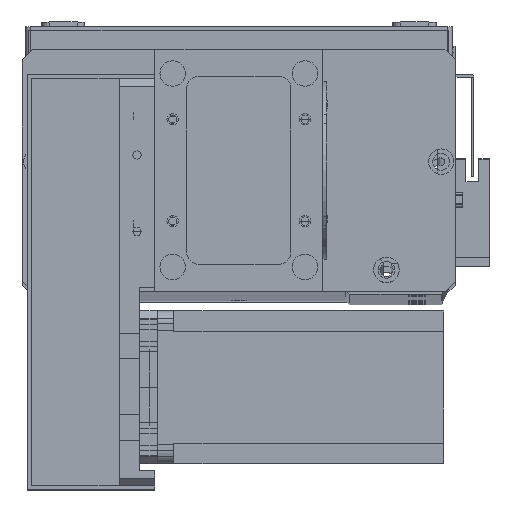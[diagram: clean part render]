
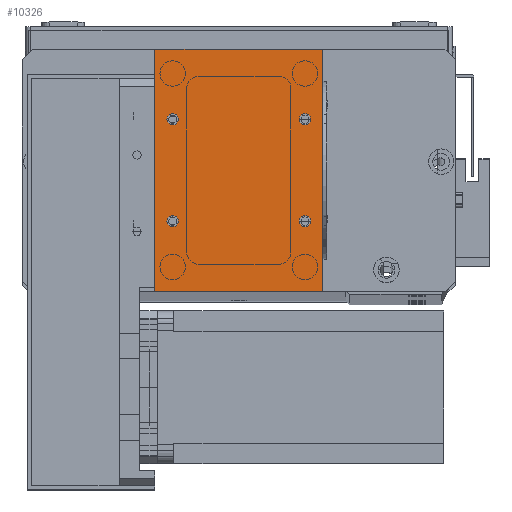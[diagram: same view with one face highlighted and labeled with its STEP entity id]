
A CAD part, top view. The second image highlights one B-rep face of the part: STEP entity #10326.
In plain terms, the highlighted planar face has unit normal (0, 0, 1).
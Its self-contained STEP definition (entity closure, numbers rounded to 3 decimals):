
#261 = DIRECTION ( 'NONE',  ( 0., 0., 1. ) ) ;
#280 = AXIS2_PLACEMENT_3D ( 'NONE', #5187, #23461, #7824 ) ;
#470 = VECTOR ( 'NONE', #3710, 1000. ) ;
#832 = ORIENTED_EDGE ( 'NONE', *, *, #5645, .F. ) ;
#1146 = ORIENTED_EDGE ( 'NONE', *, *, #30253, .T. ) ;
#1184 = LINE ( 'NONE', #25901, #7312 ) ;
#1258 = CARTESIAN_POINT ( 'NONE',  ( 7., 67.5, 2. ) ) ;
#1575 = EDGE_LOOP ( 'NONE', ( #1146, #20646, #16990, #25179 ) ) ;
#1669 = CARTESIAN_POINT ( 'NONE',  ( 9.25, 67.5, 2. ) ) ;
#2280 = CARTESIAN_POINT ( 'NONE',  ( 66., 95., 2. ) ) ;
#2296 = CARTESIAN_POINT ( 'NONE',  ( 9.25, 27.5, 2. ) ) ;
#2518 = VERTEX_POINT ( 'NONE', #8315 ) ;
#2580 = FACE_BOUND ( 'NONE', #13382, .T. ) ;
#2636 = CARTESIAN_POINT ( 'NONE',  ( 66., 0., 2. ) ) ;
#2817 = AXIS2_PLACEMENT_3D ( 'NONE', #12344, #30617, #14987 ) ;
#2891 = CARTESIAN_POINT ( 'NONE',  ( 0., 0., 2. ) ) ;
#3701 = CIRCLE ( 'NONE', #23073, 2.25 ) ;
#3710 = DIRECTION ( 'NONE',  ( 1., 0., 0. ) ) ;
#3892 = DIRECTION ( 'NONE',  ( 1., 0., 0. ) ) ;
#4043 = CIRCLE ( 'NONE', #20526, 2.25 ) ;
#4575 = VERTEX_POINT ( 'NONE', #4984 ) ;
#4853 = DIRECTION ( 'NONE',  ( -1., 0., 0. ) ) ;
#4984 = CARTESIAN_POINT ( 'NONE',  ( 56.75, 27.5, 2. ) ) ;
#5013 = EDGE_CURVE ( 'NONE', #25360, #5786, #25286, .T. ) ;
#5180 = EDGE_CURVE ( 'NONE', #15984, #23107, #1184, .T. ) ;
#5187 = CARTESIAN_POINT ( 'NONE',  ( 59., 27.5, 2. ) ) ;
#5645 = EDGE_CURVE ( 'NONE', #15875, #18022, #7271, .T. ) ;
#5768 = EDGE_CURVE ( 'NONE', #27633, #2518, #30140, .T. ) ;
#5786 = VERTEX_POINT ( 'NONE', #1669 ) ;
#5940 = AXIS2_PLACEMENT_3D ( 'NONE', #9437, #27697, #12056 ) ;
#6128 = EDGE_CURVE ( 'NONE', #18022, #15875, #20332, .T. ) ;
#6813 = EDGE_CURVE ( 'NONE', #5786, #25360, #28882, .T. ) ;
#7175 = ORIENTED_EDGE ( 'NONE', *, *, #13690, .F. ) ;
#7271 = CIRCLE ( 'NONE', #27573, 2.25 ) ;
#7312 = VECTOR ( 'NONE', #12922, 1000. ) ;
#7361 = CARTESIAN_POINT ( 'NONE',  ( 59., 27.5, 2. ) ) ;
#7824 = DIRECTION ( 'NONE',  ( 1., 0., 0. ) ) ;
#8315 = CARTESIAN_POINT ( 'NONE',  ( 56.75, 67.5, 2. ) ) ;
#8674 = CARTESIAN_POINT ( 'NONE',  ( 61.25, 67.5, 2. ) ) ;
#8724 = ORIENTED_EDGE ( 'NONE', *, *, #5013, .F. ) ;
#8878 = DIRECTION ( 'NONE',  ( 0., 0., 1. ) ) ;
#8897 = EDGE_LOOP ( 'NONE', ( #18753, #11564 ) ) ;
#9431 = CARTESIAN_POINT ( 'NONE',  ( 4.75, 67.5, 2. ) ) ;
#9437 = CARTESIAN_POINT ( 'NONE',  ( 59., 67.5, 2. ) ) ;
#9705 = ORIENTED_EDGE ( 'NONE', *, *, #25431, .F. ) ;
#9976 = DIRECTION ( 'NONE',  ( 1., 0., 0. ) ) ;
#10326 = ADVANCED_FACE ( 'NONE', ( #17307, #15634, #2580, #22609, #29540 ), #33508, .F. ) ;
#10869 = CARTESIAN_POINT ( 'NONE',  ( 0., 0., 2. ) ) ;
#11165 = EDGE_CURVE ( 'NONE', #28744, #15984, #12728, .T. ) ;
#11564 = ORIENTED_EDGE ( 'NONE', *, *, #26613, .F. ) ;
#11801 = VERTEX_POINT ( 'NONE', #14615 ) ;
#12056 = DIRECTION ( 'NONE',  ( 1., 0., 0. ) ) ;
#12328 = LINE ( 'NONE', #2891, #32358 ) ;
#12344 = CARTESIAN_POINT ( 'NONE',  ( 7., 67.5, 2. ) ) ;
#12536 = DIRECTION ( 'NONE',  ( 0., 0., 1. ) ) ;
#12728 = LINE ( 'NONE', #16733, #470 ) ;
#12922 = DIRECTION ( 'NONE',  ( 0., 1., 0. ) ) ;
#13382 = EDGE_LOOP ( 'NONE', ( #7175, #9705 ) ) ;
#13690 = EDGE_CURVE ( 'NONE', #11801, #4575, #26760, .T. ) ;
#13836 = AXIS2_PLACEMENT_3D ( 'NONE', #1258, #19544, #3892 ) ;
#14615 = CARTESIAN_POINT ( 'NONE',  ( 61.25, 27.5, 2. ) ) ;
#14987 = DIRECTION ( 'NONE',  ( 1., 0., 0. ) ) ;
#15634 = FACE_BOUND ( 'NONE', #8897, .T. ) ;
#15875 = VERTEX_POINT ( 'NONE', #2296 ) ;
#15927 = CARTESIAN_POINT ( 'NONE',  ( 7., 27.5, 2. ) ) ;
#15984 = VERTEX_POINT ( 'NONE', #2636 ) ;
#16512 = DIRECTION ( 'NONE',  ( -1., 0., 0. ) ) ;
#16733 = CARTESIAN_POINT ( 'NONE',  ( 0., 0., 2. ) ) ;
#16990 = ORIENTED_EDGE ( 'NONE', *, *, #5180, .T. ) ;
#17307 = FACE_BOUND ( 'NONE', #20622, .T. ) ;
#17529 = AXIS2_PLACEMENT_3D ( 'NONE', #15927, #261, #18551 ) ;
#18022 = VERTEX_POINT ( 'NONE', #28424 ) ;
#18131 = EDGE_LOOP ( 'NONE', ( #832, #21473 ) ) ;
#18207 = LINE ( 'NONE', #29516, #23525 ) ;
#18545 = DIRECTION ( 'NONE',  ( 0., -1., 0. ) ) ;
#18551 = DIRECTION ( 'NONE',  ( 1., 0., 0. ) ) ;
#18753 = ORIENTED_EDGE ( 'NONE', *, *, #5768, .F. ) ;
#19544 = DIRECTION ( 'NONE',  ( 0., 0., 1. ) ) ;
#20332 = CIRCLE ( 'NONE', #17529, 2.25 ) ;
#20480 = AXIS2_PLACEMENT_3D ( 'NONE', #30745, #25599, #4853 ) ;
#20526 = AXIS2_PLACEMENT_3D ( 'NONE', #28174, #12536, #30804 ) ;
#20622 = EDGE_LOOP ( 'NONE', ( #24092, #8724 ) ) ;
#20646 = ORIENTED_EDGE ( 'NONE', *, *, #11165, .T. ) ;
#21473 = ORIENTED_EDGE ( 'NONE', *, *, #6128, .F. ) ;
#22609 = FACE_BOUND ( 'NONE', #18131, .T. ) ;
#23073 = AXIS2_PLACEMENT_3D ( 'NONE', #7361, #25611, #9976 ) ;
#23107 = VERTEX_POINT ( 'NONE', #2280 ) ;
#23461 = DIRECTION ( 'NONE',  ( 0., 0., 1. ) ) ;
#23525 = VECTOR ( 'NONE', #16512, 1000. ) ;
#24092 = ORIENTED_EDGE ( 'NONE', *, *, #6813, .F. ) ;
#24518 = CARTESIAN_POINT ( 'NONE',  ( 7., 27.5, 2. ) ) ;
#25179 = ORIENTED_EDGE ( 'NONE', *, *, #28210, .T. ) ;
#25286 = CIRCLE ( 'NONE', #2817, 2.25 ) ;
#25360 = VERTEX_POINT ( 'NONE', #9431 ) ;
#25431 = EDGE_CURVE ( 'NONE', #4575, #11801, #3701, .T. ) ;
#25599 = DIRECTION ( 'NONE',  ( 0., 0., -1. ) ) ;
#25611 = DIRECTION ( 'NONE',  ( 0., 0., 1. ) ) ;
#25901 = CARTESIAN_POINT ( 'NONE',  ( 66., 0., 2. ) ) ;
#26613 = EDGE_CURVE ( 'NONE', #2518, #27633, #4043, .T. ) ;
#26760 = CIRCLE ( 'NONE', #280, 2.25 ) ;
#27142 = DIRECTION ( 'NONE',  ( 1., 0., 0. ) ) ;
#27573 = AXIS2_PLACEMENT_3D ( 'NONE', #24518, #8878, #27142 ) ;
#27633 = VERTEX_POINT ( 'NONE', #8674 ) ;
#27697 = DIRECTION ( 'NONE',  ( 0., 0., 1. ) ) ;
#28174 = CARTESIAN_POINT ( 'NONE',  ( 59., 67.5, 2. ) ) ;
#28210 = EDGE_CURVE ( 'NONE', #23107, #33883, #18207, .T. ) ;
#28424 = CARTESIAN_POINT ( 'NONE',  ( 4.75, 27.5, 2. ) ) ;
#28744 = VERTEX_POINT ( 'NONE', #10869 ) ;
#28882 = CIRCLE ( 'NONE', #13836, 2.25 ) ;
#29516 = CARTESIAN_POINT ( 'NONE',  ( 0., 95., 2. ) ) ;
#29540 = FACE_OUTER_BOUND ( 'NONE', #1575, .T. ) ;
#30140 = CIRCLE ( 'NONE', #5940, 2.25 ) ;
#30253 = EDGE_CURVE ( 'NONE', #33883, #28744, #12328, .T. ) ;
#30617 = DIRECTION ( 'NONE',  ( 0., 0., 1. ) ) ;
#30745 = CARTESIAN_POINT ( 'NONE',  ( 0., 0., 2. ) ) ;
#30804 = DIRECTION ( 'NONE',  ( 1., 0., 0. ) ) ;
#31199 = CARTESIAN_POINT ( 'NONE',  ( 0., 95., 2. ) ) ;
#32358 = VECTOR ( 'NONE', #18545, 1000. ) ;
#33508 = PLANE ( 'NONE',  #20480 ) ;
#33883 = VERTEX_POINT ( 'NONE', #31199 ) ;
